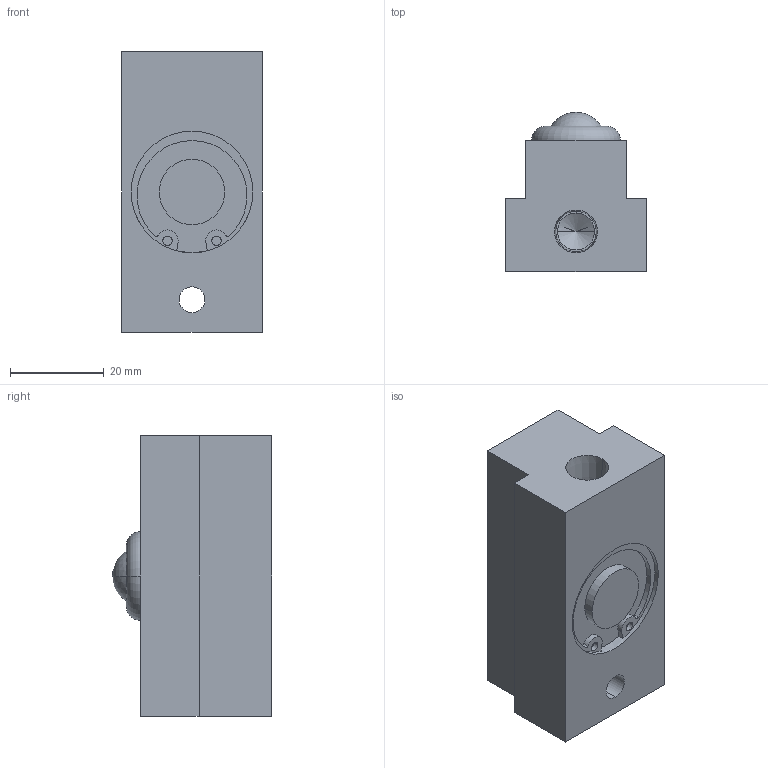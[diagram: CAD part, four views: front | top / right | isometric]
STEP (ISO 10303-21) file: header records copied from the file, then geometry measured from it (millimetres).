
FILE_DESCRIPTION (( 'STEP AP203' ), '1' );
FILE_NAME ('PVL20T-1.STEP', '2015-12-24T07:01:52', ( '' ), ( '' ), 'SwSTEP 2.0', 'SolidWorks 2013', '' );
FILE_SCHEMA (( 'CONFIG_CONTROL_DESIGN' ));
Length unit declared in the file: millimetre
Products named in the file (1): PVL20T-1
Bounding box: 30 x 34 x 60 mm (x, y, z)
Volume: 42561.6 mm3; surface area: 9655.1 mm2
Topology: 1 solids, 1 shells, 50 faces, 119 edges, 78 vertices
Faces by surface type: cylinder 22, plane 20, cone 4, torus 2, sphere 2
Entity records: 1542 total; most frequent: DIRECTION 279, CARTESIAN_POINT 246, ORIENTED_EDGE 234, EDGE_CURVE 117, AXIS2_PLACEMENT_3D 111, VERTEX_POINT 78, EDGE_LOOP 61, CIRCLE 60
